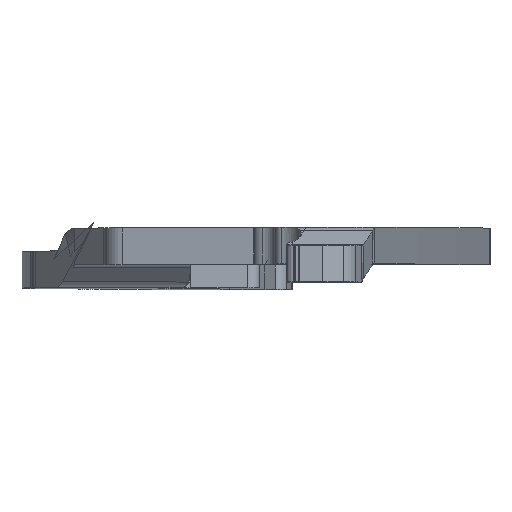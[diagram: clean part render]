
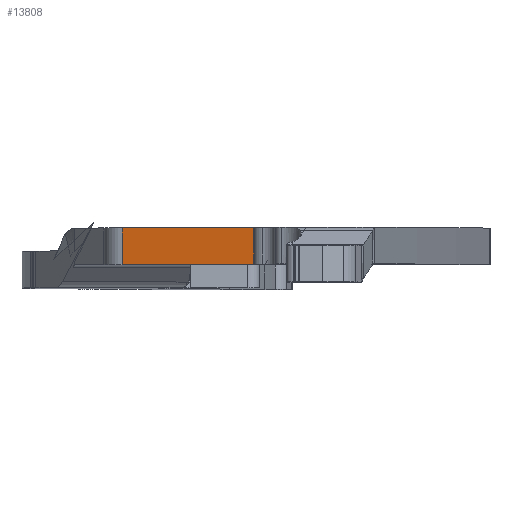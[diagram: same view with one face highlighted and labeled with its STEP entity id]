
A CAD part, top view. The second image highlights one B-rep face of the part: STEP entity #13808.
In plain terms, the highlighted planar face has unit normal (-0.191, 0, 0.982).
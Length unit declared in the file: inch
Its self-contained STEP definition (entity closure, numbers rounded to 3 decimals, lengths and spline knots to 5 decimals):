
#369 = VERTEX_POINT ( 'NONE', #3079 ) ;
#985 = ORIENTED_EDGE ( 'NONE', *, *, #13989, .F. ) ;
#1212 = VECTOR ( 'NONE', #17572, 39.37008 ) ;
#1475 = CARTESIAN_POINT ( 'NONE',  ( -0.06609, 0.12598, 0.0868 ) ) ;
#1517 = EDGE_LOOP ( 'NONE', ( #985, #16148, #8711, #3617 ) ) ;
#1947 = VECTOR ( 'NONE', #8965, 39.37008 ) ;
#3079 = CARTESIAN_POINT ( 'NONE',  ( -0.62672, 0.25197, -0.02217 ) ) ;
#3479 = CARTESIAN_POINT ( 'NONE',  ( -0.03094, 0.22643, 0.09364 ) ) ;
#3617 = ORIENTED_EDGE ( 'NONE', *, *, #8352, .T. ) ;
#3746 = CARTESIAN_POINT ( 'NONE',  ( -0.06609, 0.25197, 0.0868 ) ) ;
#4622 = VECTOR ( 'NONE', #17779, 39.37008 ) ;
#5343 = CARTESIAN_POINT ( 'NONE',  ( -0.62672, 0.25197, -0.02217 ) ) ;
#5456 = CARTESIAN_POINT ( 'NONE',  ( -0.01306, 0.25197, 0.09711 ) ) ;
#6220 = CARTESIAN_POINT ( 'NONE',  ( -0.62672, 0.12598, -0.02217 ) ) ;
#6332 = DIRECTION ( 'NONE',  ( -0.982, 0., -0.191 ) ) ;
#6597 = CARTESIAN_POINT ( 'NONE',  ( -0.10127, 0.12598, 0.07996 ) ) ;
#6997 = VERTEX_POINT ( 'NONE', #5456 ) ;
#8323 = LINE ( 'NONE', #1475, #4622 ) ;
#8352 = EDGE_CURVE ( 'NONE', #369, #11446, #17670, .T. ) ;
#8711 = ORIENTED_EDGE ( 'NONE', *, *, #9114, .T. ) ;
#8965 = DIRECTION ( 'NONE',  ( 0.57, 0.814, 0.111 ) ) ;
#9047 = LINE ( 'NONE', #11649, #16766 ) ;
#9114 = EDGE_CURVE ( 'NONE', #6997, #369, #9047, .T. ) ;
#9820 = AXIS2_PLACEMENT_3D ( 'NONE', #3746, #14641, #16152 ) ;
#11446 = VERTEX_POINT ( 'NONE', #6220 ) ;
#11649 = CARTESIAN_POINT ( 'NONE',  ( -0.06609, 0.25197, 0.0868 ) ) ;
#13808 = ADVANCED_FACE ( 'NONE', ( #16250 ), #16069, .T. ) ;
#13989 = EDGE_CURVE ( 'NONE', #16241, #11446, #8323, .T. ) ;
#14641 = DIRECTION ( 'NONE',  ( -0.191, 0., 0.982 ) ) ;
#15738 = EDGE_CURVE ( 'NONE', #16241, #6997, #15809, .T. ) ;
#15809 = LINE ( 'NONE', #3479, #1947 ) ;
#16069 = PLANE ( 'NONE',  #9820 ) ;
#16148 = ORIENTED_EDGE ( 'NONE', *, *, #15738, .T. ) ;
#16152 = DIRECTION ( 'NONE',  ( 0.982, 0., 0.191 ) ) ;
#16241 = VERTEX_POINT ( 'NONE', #6597 ) ;
#16250 = FACE_OUTER_BOUND ( 'NONE', #1517, .T. ) ;
#16766 = VECTOR ( 'NONE', #6332, 39.37008 ) ;
#17572 = DIRECTION ( 'NONE',  ( 0., -1., 0. ) ) ;
#17670 = LINE ( 'NONE', #5343, #1212 ) ;
#17779 = DIRECTION ( 'NONE',  ( -0.982, 0., -0.191 ) ) ;
